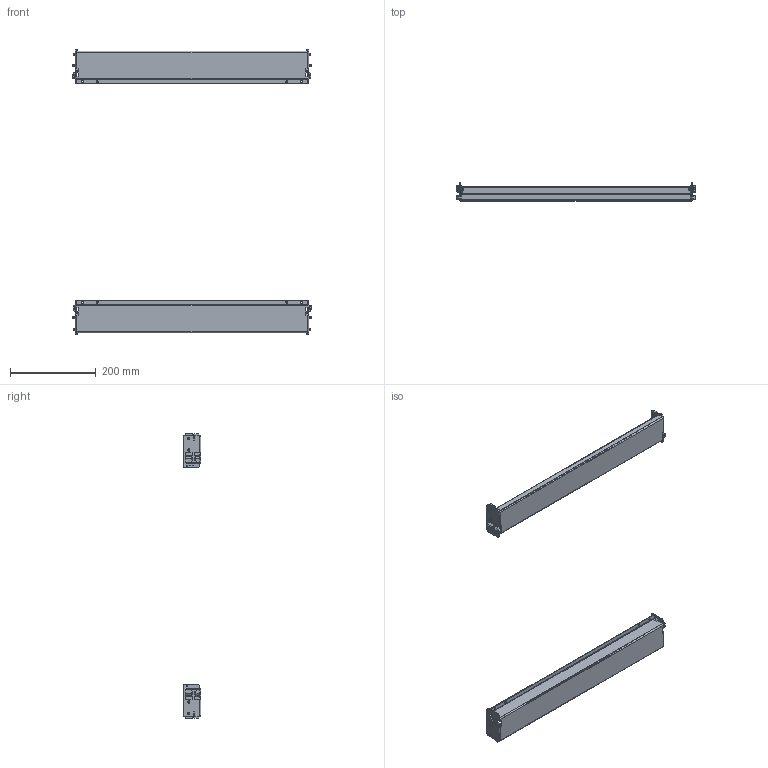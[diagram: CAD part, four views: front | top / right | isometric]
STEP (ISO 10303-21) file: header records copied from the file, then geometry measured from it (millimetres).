
FILE_DESCRIPTION((''),'2;1');
FILE_NAME('CROSS_BRACE_KIT_PILOT_221215_ASM','2023-04-04T15:34:50',('juliahuynh'),('Facebook, INC'),'CREO PARAMETRIC BY PTC INC, 2022024','CREO PARAMETRIC BY PTC INC, 2022024','');
FILE_SCHEMA(('AUTOMOTIVE_DESIGN { 1 0 10303 214 1 1 1 1 }'));
Length unit declared in the file: millimetre
Products named in the file (11): C30691_1_PILOT_221215; C30691_WLD_ASM_1_PILOT_221215_ASM; 478517_1_PILOT_221215; 406087_1_PILOT_221215; C30691_ASM_1_PILOT_221215_ASM; C30720_1_1_PILOT_221215; C30720_1_ASM_1_PILOT_221215_ASM; C30720_2_1_PILOT_221215; C30720_2_ASM_1_PILOT_221215_ASM; 405428__1_PILOT_221215; CROSS_BRACE_KIT_PILOT_221215_ASM
Assembly tree (24 placements, depth 4):
  CROSS_BRACE_KIT_PILOT_221215_ASM
    C30691_ASM_1_PILOT_221215_ASM  x2
      C30691_WLD_ASM_1_PILOT_221215_ASM
        C30691_1_PILOT_221215
      478517_1_PILOT_221215
      406087_1_PILOT_221215
    C30720_1_ASM_1_PILOT_221215_ASM  x2
      C30720_1_1_PILOT_221215
      478517_1_PILOT_221215
      406087_1_PILOT_221215
    C30720_2_ASM_1_PILOT_221215_ASM  x2
      C30720_2_1_PILOT_221215
      478517_1_PILOT_221215
      406087_1_PILOT_221215
    405428__1_PILOT_221215  x8
Bounding box: 558.76 x 41.68 x 663.74 mm (x, y, z)
Volume: 321894.4 mm3; surface area: 644558.1 mm2
Topology: 14 solids, 24 shells, 1408 faces, 4006 edges, 2632 vertices
Faces by surface type: plane 642, cylinder 598, bspline 88, cone 64, torus 16
Entity records: 21366 total; most frequent: CARTESIAN_POINT 5859, DIRECTION 2704, ORIENTED_EDGE 2448, EDGE_CURVE 1230, AXIS2_PLACEMENT_3D 946, VECTOR 783, LINE 783, VERTEX_POINT 777
